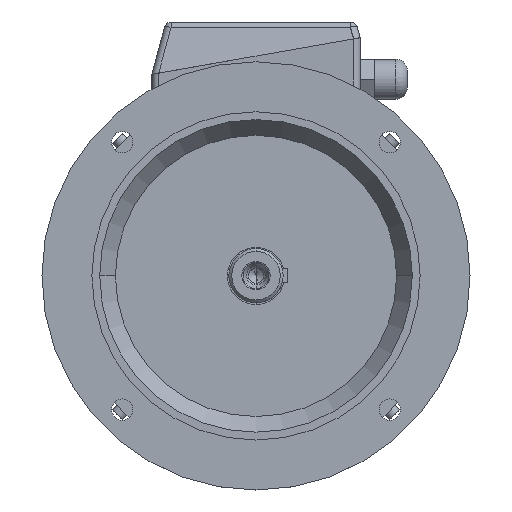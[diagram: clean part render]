
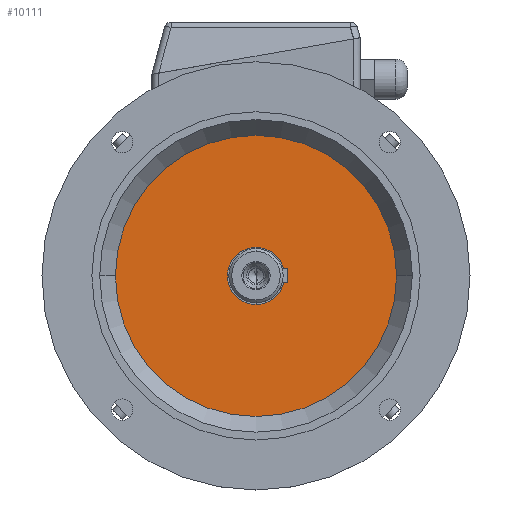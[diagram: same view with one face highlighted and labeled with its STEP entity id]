
A CAD part, top view. The second image highlights one B-rep face of the part: STEP entity #10111.
In plain terms, the highlighted planar face has unit normal (0, 0, 1).
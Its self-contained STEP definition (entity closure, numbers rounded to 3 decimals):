
#2830 = FACE_OUTER_BOUND ( 'NONE', #9852, .T. ) ;
#2831 = PLANE ( 'NONE',  #2832 ) ;
#2832 = AXIS2_PLACEMENT_3D ( 'NONE', #2833, #2834, #2835 ) ;
#2833 = CARTESIAN_POINT ( 'NONE',  ( 0., 98.5, 47. ) ) ;
#2834 = DIRECTION ( 'NONE',  ( 0., 0., 1. ) ) ;
#2835 = DIRECTION ( 'NONE',  ( 1., 0., 0. ) ) ;
#3859 = VERTEX_POINT ( 'NONE', #8509 ) ;
#3911 = VERTEX_POINT ( 'NONE', #8653 ) ;
#3971 = EDGE_CURVE ( 'NONE', #3911, #3859, #8793, .T. ) ;
#4412 = EDGE_CURVE ( 'NONE', #3859, #3911, #11024, .T. ) ;
#8509 = CARTESIAN_POINT ( 'NONE',  ( -98.5, 0., 47. ) ) ;
#8653 = CARTESIAN_POINT ( 'NONE',  ( 98.5, 0., 47. ) ) ;
#8718 = ORIENTED_EDGE ( 'NONE', *, *, #4412, .F. ) ;
#8793 = CIRCLE ( 'NONE', #8794, 98.5 ) ;
#8794 = AXIS2_PLACEMENT_3D ( 'NONE', #8795, #8796, #8797 ) ;
#8795 = CARTESIAN_POINT ( 'NONE',  ( 0., 0., 47. ) ) ;
#8796 = DIRECTION ( 'NONE',  ( 0., 0., -1. ) ) ;
#8797 = DIRECTION ( 'NONE',  ( -1., 0., 0. ) ) ;
#9288 = ORIENTED_EDGE ( 'NONE', *, *, #3971, .F. ) ;
#9852 = EDGE_LOOP ( 'NONE', ( #9288, #8718 ) ) ;
#10111 = ADVANCED_FACE ( 'NONE', ( #2830 ), #2831, .T. ) ;
#11024 = CIRCLE ( 'NONE', #11025, 98.5 ) ;
#11025 = AXIS2_PLACEMENT_3D ( 'NONE', #11026, #11027, #11028 ) ;
#11026 = CARTESIAN_POINT ( 'NONE',  ( 0., 0., 47. ) ) ;
#11027 = DIRECTION ( 'NONE',  ( 0., 0., -1. ) ) ;
#11028 = DIRECTION ( 'NONE',  ( -1., 0., 0. ) ) ;
